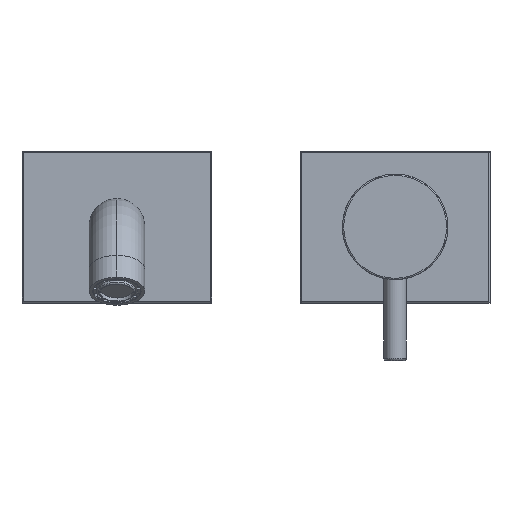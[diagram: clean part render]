
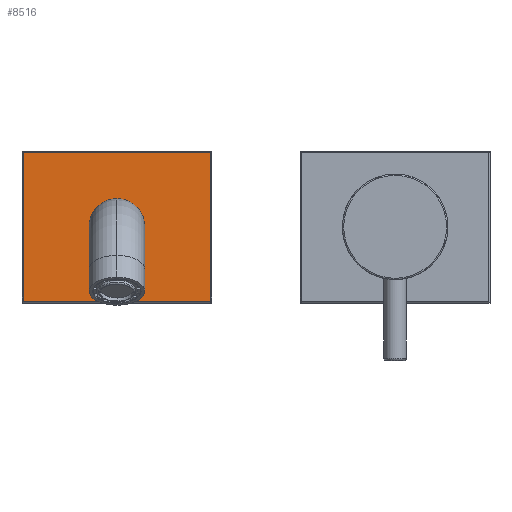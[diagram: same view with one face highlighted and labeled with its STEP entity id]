
A CAD part, top view. The second image highlights one B-rep face of the part: STEP entity #8516.
In plain terms, the highlighted planar face has unit normal (0, 0, 1).
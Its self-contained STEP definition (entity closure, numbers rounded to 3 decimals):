
#4160=CARTESIAN_POINT('',(-112.,0.,45.7));
#4161=DIRECTION('',(0.,0.,1.));
#4162=DIRECTION('',(0.,-1.,0.));
#4163=AXIS2_PLACEMENT_3D('',#4160,#4161,#4162);
#4225=DIRECTION('',(-1.,0.,0.));
#4226=VECTOR('',#4225,74.);
#4227=CARTESIAN_POINT('',(-75.,29.5,45.7));
#4228=LINE('',#4227,#4226);
#4229=DIRECTION('',(0.,1.,0.));
#4230=VECTOR('',#4229,59.);
#4231=CARTESIAN_POINT('',(-75.,-29.5,45.7));
#4232=LINE('',#4231,#4230);
#4233=DIRECTION('',(1.,0.,0.));
#4234=VECTOR('',#4233,74.);
#4235=CARTESIAN_POINT('',(-149.,-29.5,45.7));
#4236=LINE('',#4235,#4234);
#4237=DIRECTION('',(0.,-1.,0.));
#4238=VECTOR('',#4237,59.);
#4239=CARTESIAN_POINT('',(-149.,29.5,45.7));
#4240=LINE('',#4239,#4238);
#4453=CARTESIAN_POINT('',(-112.,0.,45.7));
#4454=DIRECTION('',(0.,0.,1.));
#4455=DIRECTION('',(0.,1.,0.));
#4456=AXIS2_PLACEMENT_3D('',#4453,#4454,#4455);
#6399=CARTESIAN_POINT('',(-75.,29.5,45.7));
#6400=CARTESIAN_POINT('',(-149.,29.5,45.7));
#6401=VERTEX_POINT('',#6399);
#6402=VERTEX_POINT('',#6400);
#6409=CARTESIAN_POINT('',(-149.,-29.5,45.7));
#6410=VERTEX_POINT('',#6409);
#6413=CARTESIAN_POINT('',(-75.,-29.5,45.7));
#6414=VERTEX_POINT('',#6413);
#6415=CARTESIAN_POINT('',(-112.,11.,45.7));
#6416=CARTESIAN_POINT('',(-112.,-11.,45.7));
#6417=VERTEX_POINT('',#6415);
#6418=VERTEX_POINT('',#6416);
#8496=CARTESIAN_POINT('',(-112.,0.,45.7));
#8497=DIRECTION('',(0.,0.,1.));
#8498=DIRECTION('',(0.,-1.,0.));
#8499=AXIS2_PLACEMENT_3D('',#8496,#8497,#8498);
#8500=PLANE('',#8499);
#8502=ORIENTED_EDGE('',*,*,#8501,.F.);
#8504=ORIENTED_EDGE('',*,*,#8503,.F.);
#8506=ORIENTED_EDGE('',*,*,#8505,.F.);
#8508=ORIENTED_EDGE('',*,*,#8507,.F.);
#8509=EDGE_LOOP('',(#8502,#8504,#8506,#8508));
#8510=FACE_OUTER_BOUND('',#8509,.F.);
#8512=ORIENTED_EDGE('',*,*,#8511,.T.);
#8513=ORIENTED_EDGE('',*,*,#8482,.T.);
#8514=EDGE_LOOP('',(#8512,#8513));
#8515=FACE_BOUND('',#8514,.F.);
#8516=ADVANCED_FACE('',(#8510,#8515),#8500,.T.);
#4164=CIRCLE('',#4163,11.);
#4457=CIRCLE('',#4456,11.);
#8482=EDGE_CURVE('',#6418,#6417,#4164,.T.);
#8501=EDGE_CURVE('',#6401,#6402,#4228,.T.);
#8503=EDGE_CURVE('',#6414,#6401,#4232,.T.);
#8505=EDGE_CURVE('',#6410,#6414,#4236,.T.);
#8507=EDGE_CURVE('',#6402,#6410,#4240,.T.);
#8511=EDGE_CURVE('',#6417,#6418,#4457,.T.);
